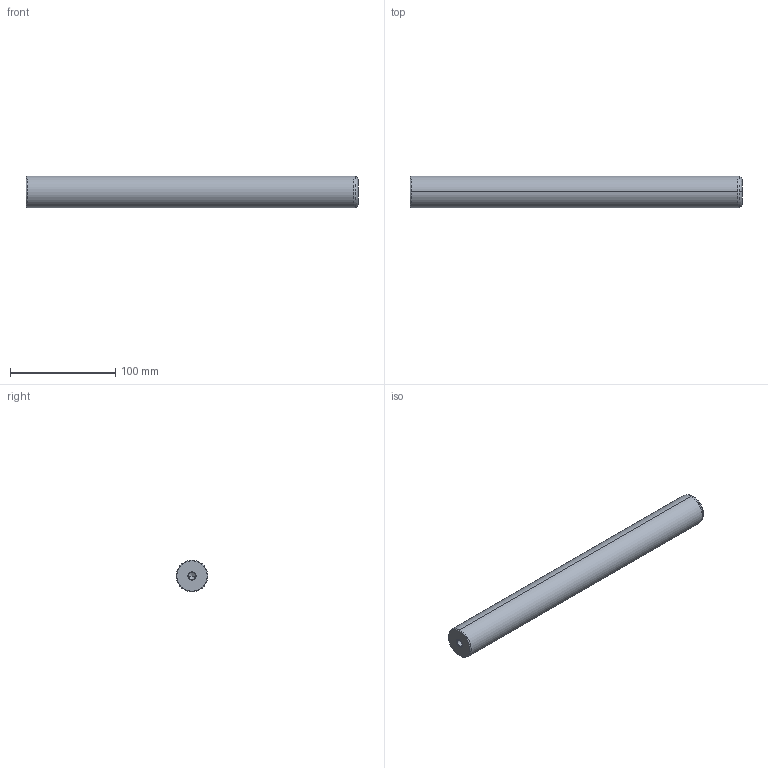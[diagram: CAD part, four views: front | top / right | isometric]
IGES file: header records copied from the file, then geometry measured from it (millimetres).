
Start section: START RECORD GO HERE.
Global section: file name: 720-30x315.igs; native system: DASSAULT SYSTEMES CATIA V5 R20 - www.3ds.com; preprocessor: CATIA Version 5 Release 20 ; author: Utente; organization: NB04-ASUS; date: 20210101.132839; units: millimetre
Bounding box: 315 x 30 x 30 mm (x, y, z)
Surface area: 31898.8 mm2 (no closed solid volume)
Topology: 0 solids, 0 shells, 22 faces, 120 edges, 116 vertices
Faces by surface type: revolution 20, plane 2
